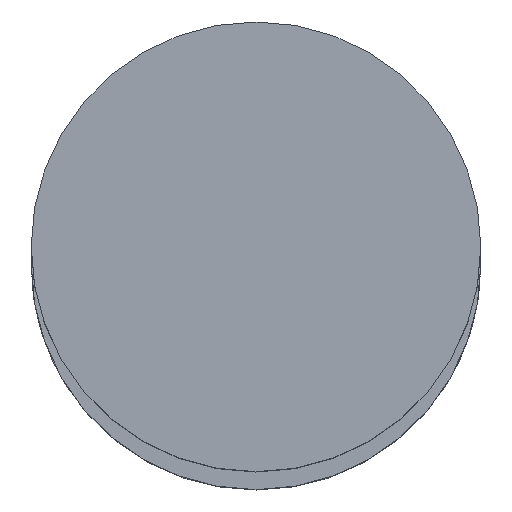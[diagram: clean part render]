
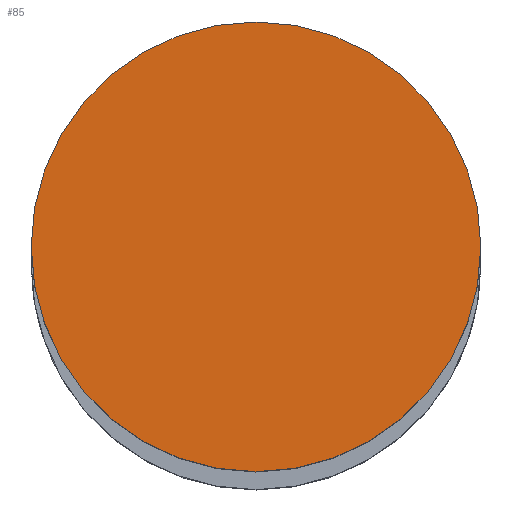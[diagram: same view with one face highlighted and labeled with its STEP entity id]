
A CAD part, top view. The second image highlights one B-rep face of the part: STEP entity #85.
In plain terms, the highlighted planar face has unit normal (0, 0, 1).
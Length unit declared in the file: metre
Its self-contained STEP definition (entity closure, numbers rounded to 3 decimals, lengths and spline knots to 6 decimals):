
#85=ADVANCED_FACE('56:4857',(#165),#166,.F.);
#165=FACE_OUTER_BOUND('',#244,.T.);
#166=PLANE('',#245);
#244=EDGE_LOOP('',(#390,#391));
#245=AXIS2_PLACEMENT_3D('',#392,#393,#394);
#390=ORIENTED_EDGE('',*,*,#433,.F.);
#391=ORIENTED_EDGE('',*,*,#478,.F.);
#392=CARTESIAN_POINT('',(-0.000092,0.000095,3.444));
#393=DIRECTION('',(0.0,0.0,-1.0));
#394=DIRECTION('',(1.0,0.0,0.0));
#433=EDGE_CURVE('27:1418',#505,#501,#507,.T.);
#478=EDGE_CURVE('',#501,#505,#572,.T.);
#501=VERTEX_POINT('',#607);
#505=VERTEX_POINT('',#612);
#507=CIRCLE('',#615,0.0155);
#572=CIRCLE('',#694,0.0155);
#607=CARTESIAN_POINT('',(0.015408,0.000095,3.444));
#612=CARTESIAN_POINT('',(-0.015592,0.000095,3.444));
#615=AXIS2_PLACEMENT_3D('',#736,#737,#738);
#694=AXIS2_PLACEMENT_3D('',#801,#802,#803);
#736=CARTESIAN_POINT('',(-0.000092,0.000095,3.444));
#737=DIRECTION('',(0.0,0.0,-1.0));
#738=DIRECTION('',(1.0,0.0,0.0));
#801=CARTESIAN_POINT('',(-0.000092,0.000095,3.444));
#802=DIRECTION('',(0.0,0.0,-1.0));
#803=DIRECTION('',(1.0,0.0,0.0));
